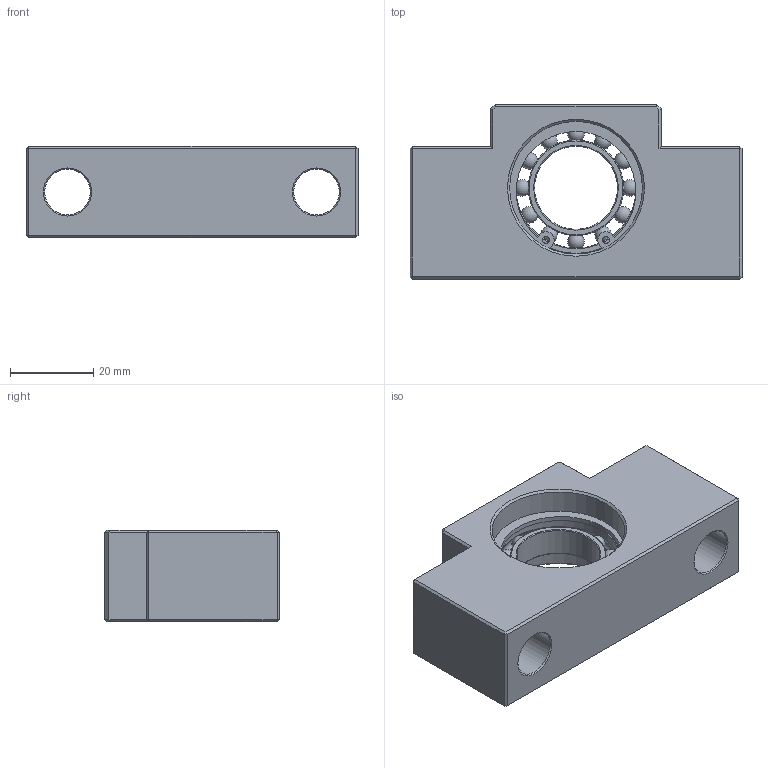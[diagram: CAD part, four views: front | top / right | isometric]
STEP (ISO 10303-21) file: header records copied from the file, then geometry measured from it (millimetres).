
FILE_DESCRIPTION(('STEP AP214'),'1');
FILE_NAME('LFA20.STEP.stp','2016-09-19T13:16:54',(' '),(' '),'Spatial InterOp 3D',' ',' ');
FILE_SCHEMA(('automotive_design'));
Length unit declared in the file: millimetre
Products named in the file (19): Assembly1; 6804___C_`__-1-solid8; 6804___C_`__-1-solid3; 6804___C_`__-1-solid6; 6804___C_`__-1-solid11; 6804___C_`__-1-solid1; LFA20-1-solid1; 6804___C_`__-1-solid4; 6804___C_`__-1-solid10; 6804___C_`__-1-solid7; 6804___C_`__-1-solid14; 6804___C_`__-1-solid9; 6804___C_`__-1-solid13; 6804___C_`__-1-solid12; 6804___C_`__-1-solid2; 6804___C_`__-1-solid5; NONE
Assembly tree (18 placements, depth 3):
  (unnamed)
    Assembly1
      6804___C_`__-1-solid8
      6804___C_`__-1-solid3
      6804___C_`__-1-solid6
      6804___C_`__-1-solid11
      6804___C_`__-1-solid1
      LFA20-1-solid1
      6804___C_`__-1-solid4
      6804___C_`__-1-solid10
      6804___C_`__-1-solid7
      6804___C_`__-1-solid14
      6804___C_`__-1-solid9
      6804___C_`__-1-solid13
      6804___C_`__-1-solid12
      6804___C_`__-1-solid2
      6804___C_`__-1-solid5
    NONE
    NONE
Bounding box: 80 x 42 x 22 mm (x, y, z)
Volume: 40187.6 mm3; surface area: 18902 mm2
Topology: 17 solids, 17 shells, 117 faces, 261 edges, 160 vertices
Faces by surface type: plane 62, cylinder 27, sphere 12, torus 10, cone 6
Full cylindrical faces by diameter (mm): 1.634 x4, 11 x2, 17 x2, 20 x1, 23 x2, 29 x2, 32 x4, 33.7 x2
Entity records: 4080 total; most frequent: DIRECTION 528, CARTESIAN_POINT 455, ORIENTED_EDGE 372, AXIS2_PLACEMENT_3D 205, EDGE_CURVE 186, EDGE_LOOP 164, FACE_OUTER_BOUND 134, VERTEX_POINT 132
